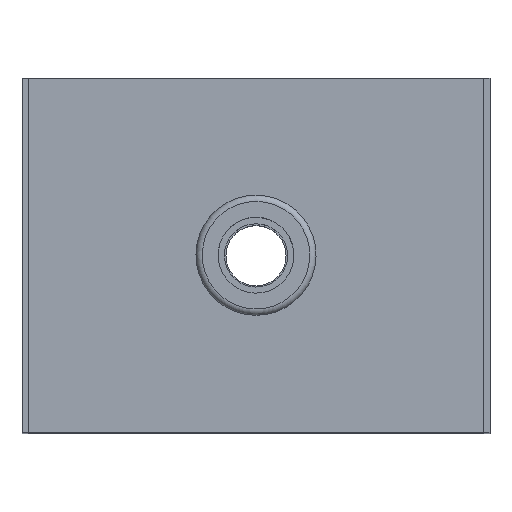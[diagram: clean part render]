
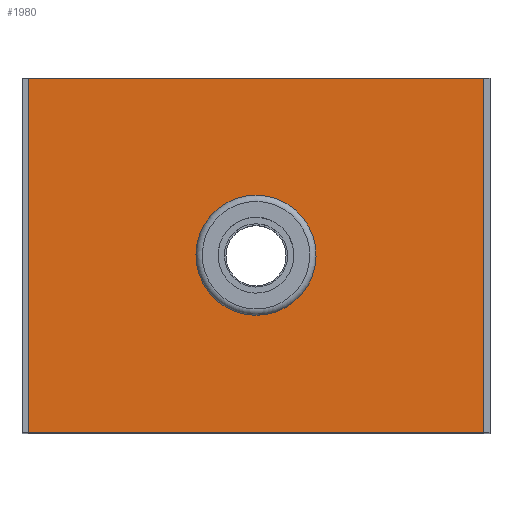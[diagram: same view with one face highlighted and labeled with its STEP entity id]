
A CAD part, top view. The second image highlights one B-rep face of the part: STEP entity #1980.
In plain terms, the highlighted planar face has unit normal (0, 0, 1).
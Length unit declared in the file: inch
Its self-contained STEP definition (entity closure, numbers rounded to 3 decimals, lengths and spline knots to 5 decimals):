
#105=FACE_BOUND('',#478,.T.);
#106=FACE_BOUND('',#479,.T.);
#211=PLANE('',#2164);
#478=EDGE_LOOP('',(#1554));
#479=EDGE_LOOP('',(#1555,#1556,#1557,#1558));
#584=LINE('',#13370,#694);
#586=LINE('',#13374,#696);
#587=LINE('',#13376,#697);
#588=LINE('',#13377,#698);
#694=VECTOR('',#2528,9.);
#696=VECTOR('',#2532,7.);
#697=VECTOR('',#2533,9.);
#698=VECTOR('',#2534,7.);
#801=CIRCLE('',#2153,0.9375);
#939=VERTEX_POINT('',#13331);
#952=VERTEX_POINT('',#13367);
#953=VERTEX_POINT('',#13369);
#954=VERTEX_POINT('',#13373);
#955=VERTEX_POINT('',#13375);
#1149=EDGE_CURVE('',#939,#939,#801,.T.);
#1167=EDGE_CURVE('',#953,#952,#584,.T.);
#1169=EDGE_CURVE('',#952,#954,#586,.T.);
#1170=EDGE_CURVE('',#955,#954,#587,.T.);
#1171=EDGE_CURVE('',#953,#955,#588,.T.);
#1554=ORIENTED_EDGE('',*,*,#1149,.T.);
#1555=ORIENTED_EDGE('',*,*,#1169,.T.);
#1556=ORIENTED_EDGE('',*,*,#1170,.F.);
#1557=ORIENTED_EDGE('',*,*,#1171,.F.);
#1558=ORIENTED_EDGE('',*,*,#1167,.T.);
#1980=ADVANCED_FACE('',(#105,#106),#211,.T.);
#2153=AXIS2_PLACEMENT_3D('',#13332,#2493,#2494);
#2164=AXIS2_PLACEMENT_3D('',#13372,#2530,#2531);
#2493=DIRECTION('center_axis',(0.,0.,-1.));
#2494=DIRECTION('ref_axis',(-1.,0.,0.));
#2528=DIRECTION('',(-1.,0.,0.));
#2530=DIRECTION('center_axis',(0.,0.,1.));
#2531=DIRECTION('ref_axis',(-1.,0.,0.));
#2532=DIRECTION('',(0.,-1.,0.));
#2533=DIRECTION('',(-1.,0.,0.));
#2534=DIRECTION('',(0.,-1.,0.));
#13331=CARTESIAN_POINT('',(-0.9375,0.,0.));
#13332=CARTESIAN_POINT('Origin',(0.,0.,0.));
#13367=CARTESIAN_POINT('',(-4.5,3.5,0.));
#13369=CARTESIAN_POINT('',(4.5,3.5,0.));
#13370=CARTESIAN_POINT('',(4.5,3.5,0.));
#13372=CARTESIAN_POINT('Origin',(4.5,3.5,0.));
#13373=CARTESIAN_POINT('',(-4.5,-3.5,0.));
#13374=CARTESIAN_POINT('',(-4.5,1.75,0.));
#13375=CARTESIAN_POINT('',(4.5,-3.5,0.));
#13376=CARTESIAN_POINT('',(4.5,-3.5,0.));
#13377=CARTESIAN_POINT('',(4.5,1.75,0.));
